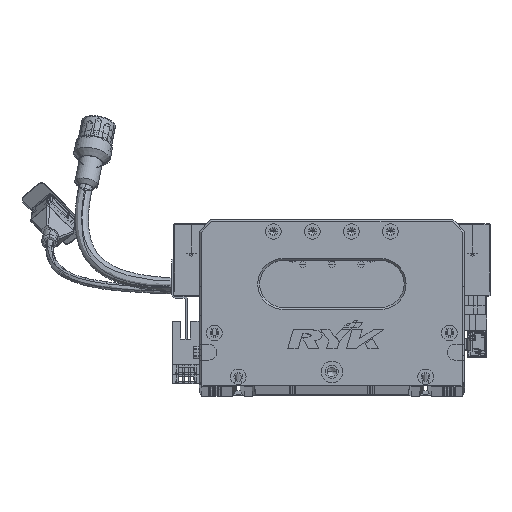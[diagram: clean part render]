
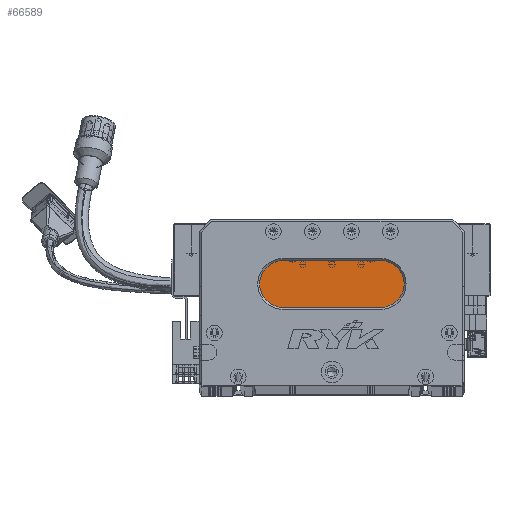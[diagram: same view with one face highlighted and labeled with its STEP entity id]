
A CAD part, top view. The second image highlights one B-rep face of the part: STEP entity #66589.
In plain terms, the highlighted planar face has unit normal (0, 0, 1) as drawn and (0, 0, -1) by its records, which use the part's own axes.
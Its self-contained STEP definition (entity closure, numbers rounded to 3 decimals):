
#4987 = CIRCLE ( 'NONE', #24782, 12. ) ;
#5303 = AXIS2_PLACEMENT_3D ( 'NONE', #7010, #113651, #18727 ) ;
#5360 = ORIENTED_EDGE ( 'NONE', *, *, #83818, .T. ) ;
#6317 = VERTEX_POINT ( 'NONE', #134959 ) ;
#7010 = CARTESIAN_POINT ( 'NONE',  ( 43., 52., 13. ) ) ;
#11829 = VERTEX_POINT ( 'NONE', #61642 ) ;
#13537 = CARTESIAN_POINT ( 'NONE',  ( 31., 52., 13. ) ) ;
#15093 = DIRECTION ( 'NONE',  ( 0., 0., -1. ) ) ;
#18727 = DIRECTION ( 'NONE',  ( -1., 0., 0. ) ) ;
#21807 = EDGE_CURVE ( 'NONE', #6317, #136916, #30147, .T. ) ;
#23928 = VERTEX_POINT ( 'NONE', #88407 ) ;
#24782 = AXIS2_PLACEMENT_3D ( 'NONE', #43518, #33629, #129859 ) ;
#30147 = LINE ( 'NONE', #62527, #73796 ) ;
#30623 = DIRECTION ( 'NONE',  ( -1., 0., 0. ) ) ;
#33427 = DIRECTION ( 'NONE',  ( -1., 0., 0. ) ) ;
#33629 = DIRECTION ( 'NONE',  ( 0., 0., -1. ) ) ;
#36303 = CARTESIAN_POINT ( 'NONE',  ( 43., 52., 13. ) ) ;
#38285 = LINE ( 'NONE', #48979, #120574 ) ;
#41068 = EDGE_CURVE ( 'NONE', #23928, #11829, #38285, .T. ) ;
#43518 = CARTESIAN_POINT ( 'NONE',  ( 93., 52., 13. ) ) ;
#45263 = DIRECTION ( 'NONE',  ( -1., 0., 0. ) ) ;
#48979 = CARTESIAN_POINT ( 'NONE',  ( 93., 64., 13. ) ) ;
#49411 = VERTEX_POINT ( 'NONE', #13537 ) ;
#60441 = EDGE_CURVE ( 'NONE', #11829, #6317, #4987, .T. ) ;
#61642 = CARTESIAN_POINT ( 'NONE',  ( 93., 64., 13. ) ) ;
#62527 = CARTESIAN_POINT ( 'NONE',  ( 93., 40., 13. ) ) ;
#65321 = DIRECTION ( 'NONE',  ( 0., 0., -1. ) ) ;
#66589 = ADVANCED_FACE ( 'NONE', ( #90584 ), #119319, .T. ) ;
#73796 = VECTOR ( 'NONE', #30623, 1000. ) ;
#75006 = ORIENTED_EDGE ( 'NONE', *, *, #87044, .T. ) ;
#83818 = EDGE_CURVE ( 'NONE', #136916, #49411, #139057, .T. ) ;
#86682 = ORIENTED_EDGE ( 'NONE', *, *, #60441, .T. ) ;
#87044 = EDGE_CURVE ( 'NONE', #49411, #23928, #125146, .T. ) ;
#88407 = CARTESIAN_POINT ( 'NONE',  ( 43., 64., 13. ) ) ;
#89332 = CARTESIAN_POINT ( 'NONE',  ( 43., 40., 13. ) ) ;
#90584 = FACE_OUTER_BOUND ( 'NONE', #93849, .T. ) ;
#93849 = EDGE_LOOP ( 'NONE', ( #86682, #125937, #5360, #75006, #102111 ) ) ;
#102111 = ORIENTED_EDGE ( 'NONE', *, *, #41068, .T. ) ;
#112012 = AXIS2_PLACEMENT_3D ( 'NONE', #117476, #65321, #33427 ) ;
#113651 = DIRECTION ( 'NONE',  ( 0., 0., -1. ) ) ;
#116536 = AXIS2_PLACEMENT_3D ( 'NONE', #36303, #15093, #45263 ) ;
#117476 = CARTESIAN_POINT ( 'NONE',  ( 93., 52., 13. ) ) ;
#119319 = PLANE ( 'NONE',  #112012 ) ;
#120574 = VECTOR ( 'NONE', #133916, 1000. ) ;
#125146 = CIRCLE ( 'NONE', #5303, 12. ) ;
#125937 = ORIENTED_EDGE ( 'NONE', *, *, #21807, .T. ) ;
#129859 = DIRECTION ( 'NONE',  ( -1., 0., 0. ) ) ;
#133916 = DIRECTION ( 'NONE',  ( 1., 0., 0. ) ) ;
#134959 = CARTESIAN_POINT ( 'NONE',  ( 93., 40., 13. ) ) ;
#136916 = VERTEX_POINT ( 'NONE', #89332 ) ;
#139057 = CIRCLE ( 'NONE', #116536, 12. ) ;
